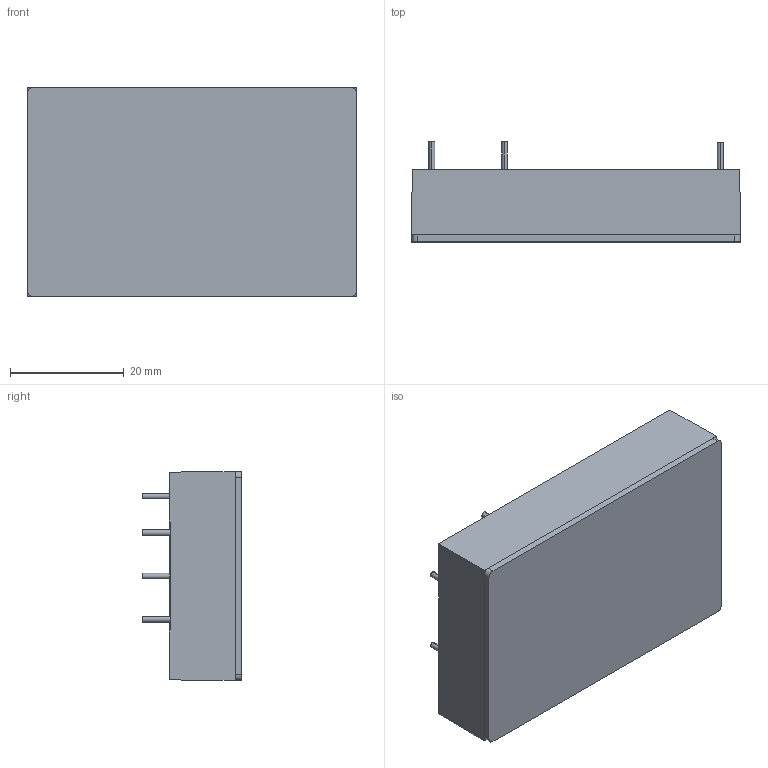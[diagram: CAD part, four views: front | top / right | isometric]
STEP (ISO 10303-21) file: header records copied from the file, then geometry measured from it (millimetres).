
FILE_DESCRIPTION (( 'STEP AP203' ), '1' );
FILE_NAME ('MF20D050 ²Õ¦X¹Ï-1130308.STEP', '2024-10-30T01:54:44', ( 'cincon' ), ( '' ), 'SwSTEP 2.0', 'SolidWorks 2020', '' );
FILE_SCHEMA (( 'CONFIG_CONTROL_DESIGN' ));
Length unit declared in the file: millimetre
Products named in the file (5): MF20D050 組合圖-1130308; CQB100W14-72SXX鋁基板; MF20D050 PCB示意圖2022.07.20; MF20D050 BASE示意圖2022.06.23 RD; CQB150W14 CASE 2022.06.21_兩孔
Assembly tree (4 placements, depth 2):
  MF20D050 組合圖-1130308
    CQB150W14 CASE 2022.06.21_兩孔
    CQB100W14-72SXX鋁基板
    MF20D050 PCB示意圖2022.07.20
    MF20D050 BASE示意圖2022.06.23 RD
Bounding box: 57.9 x 17.6 x 36.8 mm (x, y, z)
Volume: 12147.4 mm3; surface area: 18425.6 mm2
Topology: 8 solids, 58 shells, 625 faces, 1444 edges, 950 vertices
Faces by surface type: plane 352, cylinder 237, cone 30, bspline 6
Entity records: 22238 total; most frequent: CARTESIAN_POINT 8045, ORIENTED_EDGE 2888, DIRECTION 2699, EDGE_CURVE 1444, VERTEX_POINT 950, LINE 911, VECTOR 911, AXIS2_PLACEMENT_3D 894
